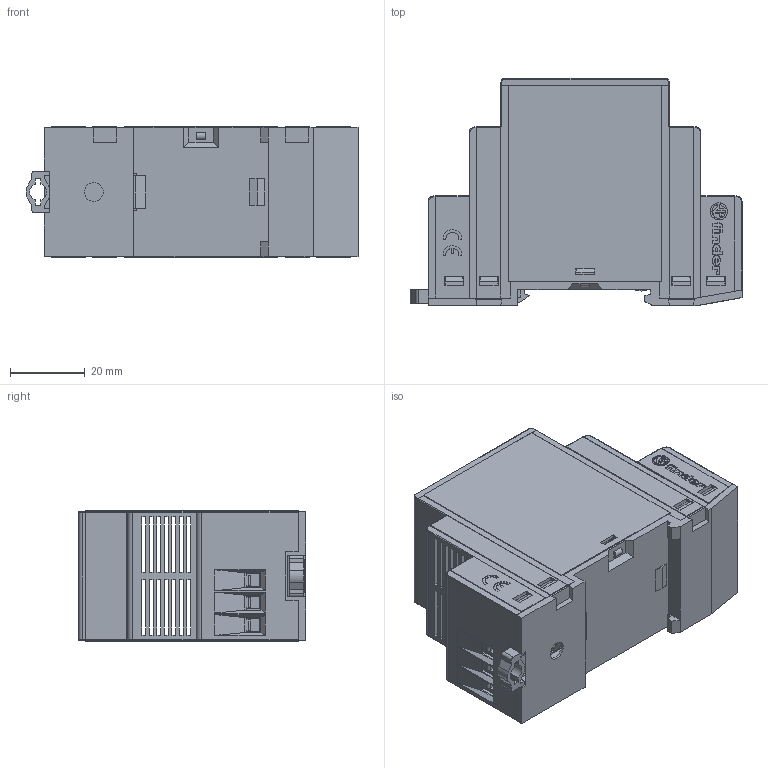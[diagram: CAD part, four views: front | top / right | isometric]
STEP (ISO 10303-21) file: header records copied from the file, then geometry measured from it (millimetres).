
FILE_DESCRIPTION(/* description */ ('Unknown'),/* implementation_level */ '2;1');
FILE_NAME(/* name */ '7041',/* time_stamp */ '2017-09-29T14:25:38+02:00',/* author */ ('Unknown'),/* organization */ ('Unknown'),/* preprocessor_version */ 'ST-DEVELOPER v16.7',/* originating_system */ 'DEX',/* authorisation */ $);
FILE_SCHEMA (('AUTOMOTIVE_DESIGN {1 0 10303 214 3 1 1}'));
Products named in the file (1): 7041
Bounding box: 88.85 x 60.8 x 35 mm (x, y, z)
Surface area: 26333.4 mm2 (no closed solid volume)
Topology: 0 solids, 42 shells, 2154 faces, 6954 edges, 4829 vertices
Faces by surface type: plane 1914, cylinder 151, bspline 42, cone 33, torus 14
Full cylindrical faces by diameter (mm): 3 x2, 4.6 x7, 5 x13
Entity records: 82264 total; most frequent: CARTESIAN_POINT 16481, ORIENTED_EDGE 11887, DIRECTION 11331, EDGE_CURVE 6919, LINE 6103, VECTOR 6103, VERTEX_POINT 4818, AXIS2_PLACEMENT_3D 2614
